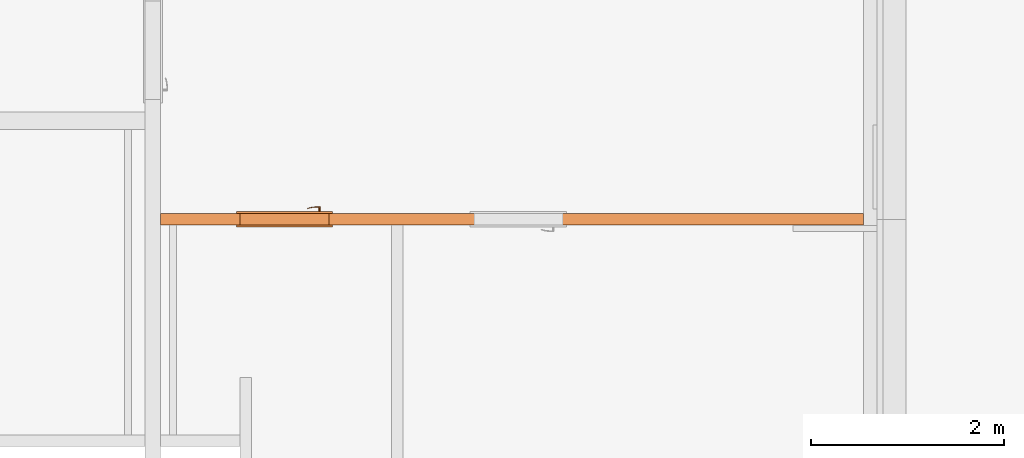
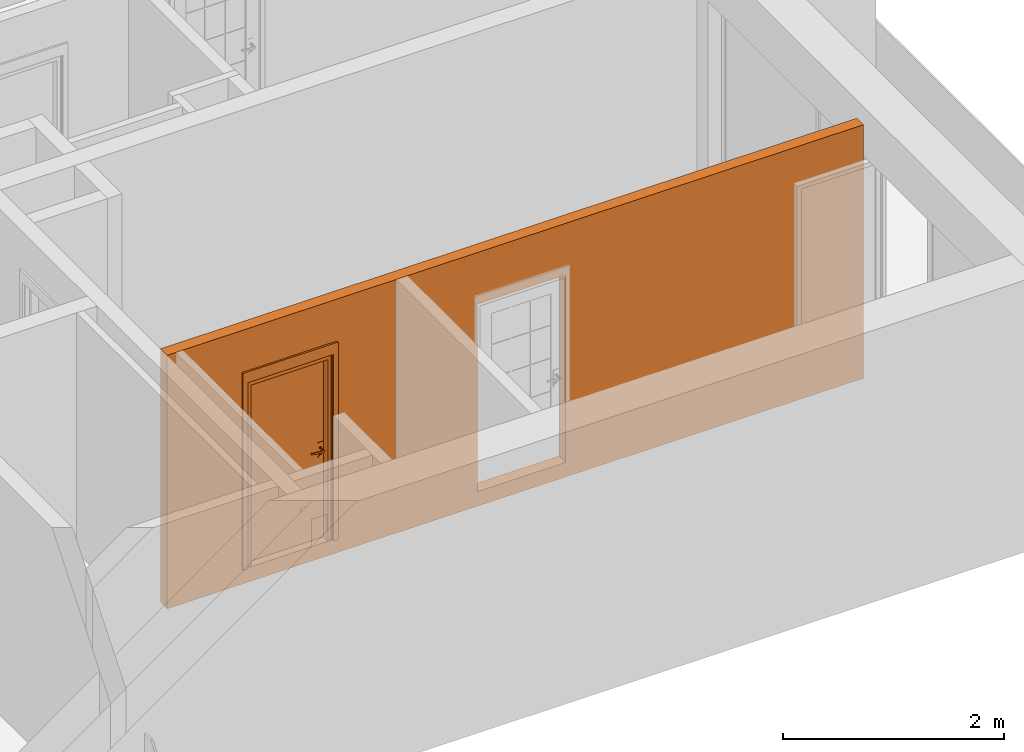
# One storey, part 10 of 66: 2 proxies, 2 openings.
"""IFC2X3 building model written with IfcOpenShell, lengths in millimetres."""

from ifc_helpers import new_model, entity, si_unit, converted_unit, derived_unit, money_unit, direction, frame, origin_with_axes, origin_2d_with_axis, place, context, subcontext, project, spatial, rectangle, extrude, open_shell, faceted_brep, surface_model, source, transform, mapped, material, type_object, element, fill, save


model = new_model("IFC2X3")

# Units and contexts
model_context = context("Model", 3, precision=0.01, world=origin_with_axes(), true_north=direction((0.34421633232, 0.938890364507)))
body_context = subcontext(model_context, "Body", "Model", "MODEL_VIEW")
ifc_project = project(units=[si_unit("LENGTHUNIT", "METRE", prefix="MILLI"), si_unit("AREAUNIT", "SQUARE_METRE"), si_unit("VOLUMEUNIT", "CUBIC_METRE"), converted_unit("PLANEANGLEUNIT", "DEGREE", entity("IfcPlaneAngleMeasure", 0.0174532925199), si_unit("PLANEANGLEUNIT", "RADIAN"), dimensions=[0, 0, 0, 0, 0, 0, 0]), si_unit("SOLIDANGLEUNIT", "STERADIAN"), money_unit("USD"), converted_unit("TIMEUNIT", "Year", entity("IfcTimeMeasure", 31556926.0), si_unit("TIMEUNIT", "SECOND"), dimensions=[0, 0, 1, 0, 0, 0, 0]), si_unit("MASSUNIT", "GRAM", prefix="KILO"), si_unit("THERMODYNAMICTEMPERATUREUNIT", "DEGREE_CELSIUS"), si_unit("LUMINOUSINTENSITYUNIT", "LUMEN"), si_unit("ENERGYUNIT", "JOULE", prefix="MEGA"), derived_unit("THERMALCONDUCTANCEUNIT", [(si_unit("POWERUNIT", "WATT"), 1), (si_unit("LENGTHUNIT", "METRE"), -1), (si_unit("THERMODYNAMICTEMPERATUREUNIT", "KELVIN"), -1)]), derived_unit("SPECIFICHEATCAPACITYUNIT", [(si_unit("ENERGYUNIT", "JOULE"), 1), (si_unit("MASSUNIT", "GRAM", prefix="KILO"), -1), (si_unit("THERMODYNAMICTEMPERATUREUNIT", "KELVIN"), -1)]), derived_unit("MASSDENSITYUNIT", [(si_unit("MASSUNIT", "GRAM", prefix="KILO"), 1), (si_unit("VOLUMEUNIT", "CUBIC_METRE"), -1)])], contexts=[model_context])

# Site, building, storey
site_placement = place(None, origin_with_axes())
site = spatial("IfcSite", under=ifc_project, at=site_placement, Name="USTRONIE MORSKIE", CompositionType="ELEMENT")
building_placement = place(site_placement, origin_with_axes())
building = spatial("IfcBuilding", under=site, at=building_placement, Name="Budynek", CompositionType="ELEMENT")
storey_placement = place(building_placement, frame((0.0, 0.0, 10000.0), z_axis=(0.0, 0.0, 1.0), x_axis=(1.0, 0.0, 0.0)))
storey = spatial("IfcBuildingStorey", under=building, at=storey_placement, Name="PIĘTRO 3", CompositionType="ELEMENT", Elevation=10000.0)

# Proxies, openings
ifc_material = material(Name="Bloczki silikatowe")
building_element_proxy_type_1 = type_object("IfcBuildingElementProxyType", Name="Bloczki silikatowe 120", PredefinedType="NOTDEFINED")
proxy_1_placement = place(storey_placement, frame((359617.920919, 712051.218403, -160.0), z_axis=(0.0, 0.0, 1.0), x_axis=(1.0, 0.0, 0.0)))
proxy_1 = element("IfcBuildingElementProxy", 1, at=proxy_1_placement, inside=storey, type_object=building_element_proxy_type_1, material=ifc_material, Name="SW-04", context=body_context, shape_type="Brep", body=[
    faceted_brep([(7350.03027843, 59.9999999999, 0.0), (7350.03053053, -59.9999999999, 0.0), (80.0, -59.9999999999, 0.0), (80.0, 59.9999999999, 0.0), (7350.03027843, 59.9999999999, 2800.0), (7350.03053053, -59.9999999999, 2800.0), (80.0, -59.9999999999, 2800.0), (80.0, 59.9999999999, 2800.0)], [[[0, 1, 2, 3]], [[1, 0, 4, 5]], [[1, 5, 6, 2]], [[7, 3, 2, 6]], [[4, 0, 3, 7]], [[5, 4, 7, 6]]]),
])
opening_1_placement = place(proxy_1_placement, frame((3780.0, 0.0, 160.0), z_axis=(0.0, 0.0, 1.0), x_axis=(1.0, 0.0, 0.0)))
element("IfcOpeningElement", 2, at=opening_1_placement, cuts=proxy_1, Name="Dw.3", context=body_context, shape_type="SweptSolid", body=[
    extrude(rectangle(XDim=920.0, YDim=2070.0, at=origin_2d_with_axis()), frame((0.0, -120.0, 1035.0), z_axis=(0.0, 1.0, 0.0), x_axis=(-1.0, 0.0, 0.0)), (0.0, 0.0, 1.0), 360.0),
    extrude(rectangle(XDim=994.0, YDim=2177.0, at=origin_2d_with_axis()), frame((0.0, -59.9999999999, 1088.5), z_axis=(0.0, 1.0, 0.0), x_axis=(-1.0, 0.0, 0.0)), (0.0, 0.0, -1.0), 120.0),
    extrude(rectangle(XDim=994.0, YDim=2177.0, at=origin_2d_with_axis()), frame((0.0, 60.0000000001, 1088.5), z_axis=(0.0, -1.0, 0.0), x_axis=(-1.0, 0.0, 0.0)), (0.0, 0.0, -1.0), 120.0),
])
opening_2_placement = place(proxy_1_placement, frame((1360.0, 0.0, 160.0), z_axis=(0.0, 0.0, 1.0), x_axis=(1.0, 0.0, 0.0)))
opening_2 = element("IfcOpeningElement", 3, at=opening_2_placement, cuts=proxy_1, Name="Dw.4", context=body_context, shape_type="SweptSolid", body=[
    extrude(rectangle(XDim=920.0, YDim=2070.0, at=origin_2d_with_axis()), frame((0.0, -120.0, 1035.0), z_axis=(0.0, -1.0, 0.0), x_axis=(-1.0, 0.0, 0.0)), (0.0, 0.0, -1.0), 360.0),
    extrude(rectangle(XDim=994.0, YDim=2177.0, at=origin_2d_with_axis()), frame((0.0, -59.9999999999, 1088.5), z_axis=(0.0, -1.0, 0.0), x_axis=(-1.0, 0.0, 0.0)), (0.0, 0.0, 1.0), 120.0),
    extrude(rectangle(XDim=994.0, YDim=2177.0, at=origin_2d_with_axis()), frame((0.0, 60.0000000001, 1088.5), z_axis=(0.0, 1.0, 0.0), x_axis=(-1.0, 0.0, 0.0)), (0.0, 0.0, 1.0), 120.0),
])
building_element_proxy_type_2 = type_object("IfcBuildingElementProxyType", Name="Drzwi 23", PredefinedType="NOTDEFINED")
shared_shape = source(origin_with_axes(), body_context, "Body", "SurfaceModel", [
    faceted_brep([(460.0, -115.0, 0.0), (460.0, -120.0, 0.0), (435.0, -120.0, 0.0), (435.0, -115.0, 0.0), (460.0, -115.0, 2070.0), (460.0, -120.0, 2070.0), (435.0, -120.0, 2045.0), (435.0, -115.0, 2045.0)], [[[0, 1, 2, 3]], [[4, 5, 1, 0]], [[1, 5, 6, 2]], [[3, 2, 6, 7]], [[0, 3, 7, 4]], [[7, 6, 5, 4]]]),
    faceted_brep([(-460.0, -115.0, 2070.0), (-460.0, -120.0, 2070.0), (-435.0, -120.0, 2045.0), (-435.0, -115.0, 2045.0), (-460.0, -115.0, 0.0), (-460.0, -120.0, 0.0), (-435.0, -120.0, 0.0), (-435.0, -115.0, 0.0)], [[[0, 1, 2, 3]], [[4, 5, 1, 0]], [[1, 5, 6, 2]], [[3, 2, 6, 7]], [[0, 3, 7, 4]], [[7, 6, 5, 4]]]),
    faceted_brep([(435.0, -115.0, 2045.0), (435.0, -120.0, 2045.0), (-435.0, -120.0, 2045.0), (-435.0, -115.0, 2045.0), (460.0, -115.0, 2070.0), (460.0, -120.0, 2070.0), (-460.0, -120.0, 2070.0), (-460.0, -115.0, 2070.0)], [[[0, 1, 2, 3]], [[4, 5, 1, 0]], [[1, 5, 6, 2]], [[3, 2, 6, 7]], [[0, 3, 7, 4]], [[7, 6, 5, 4]]]),
    faceted_brep([(497.0, -139.0, 0.0), (447.0, -139.0, 0.0), (447.0, -120.0, 0.0), (497.0, -120.0, 0.0), (497.0, -139.0, 2177.0), (447.0, -139.0, 2057.0), (447.0, -120.0, 2057.0), (497.0, -120.0, 2177.0)], [[[0, 1, 2, 3]], [[0, 4, 5, 1]], [[1, 5, 6, 2]], [[3, 2, 6, 7]], [[4, 0, 3, 7]], [[5, 4, 7, 6]]]),
    faceted_brep([(-497.0, -139.0, 2177.0), (-447.0, -139.0, 2057.0), (-447.0, -120.0, 2057.0), (-497.0, -120.0, 2177.0), (-497.0, -139.0, 0.0), (-447.0, -139.0, 0.0), (-447.0, -120.0, 0.0), (-497.0, -120.0, 0.0)], [[[0, 1, 2, 3]], [[0, 4, 5, 1]], [[1, 5, 6, 2]], [[3, 2, 6, 7]], [[4, 0, 3, 7]], [[5, 4, 7, 6]]]),
    faceted_brep([(497.0, -139.0, 2177.0), (447.0, -139.0, 2057.0), (447.0, -120.0, 2057.0), (497.0, -120.0, 2177.0), (-497.0, -139.0, 2177.0), (-447.0, -139.0, 2057.0), (-447.0, -120.0, 2057.0), (-497.0, -120.0, 2177.0)], [[[0, 1, 2, 3]], [[0, 4, 5, 1]], [[1, 5, 6, 2]], [[3, 2, 6, 7]], [[4, 0, 3, 7]], [[5, 4, 7, 6]]]),
    faceted_brep([(497.0, 19.0, 0.0), (497.0, 0.0, 0.0), (447.0, 0.0, 0.0), (447.0, 19.0, 0.0), (497.0, 19.0, 2177.0), (497.0, 0.0, 2177.0), (447.0, 0.0, 2057.0), (447.0, 19.0, 2057.0)], [[[0, 1, 2, 3]], [[4, 5, 1, 0]], [[1, 5, 6, 2]], [[3, 2, 6, 7]], [[0, 3, 7, 4]], [[7, 6, 5, 4]]]),
    faceted_brep([(-497.0, 19.0, 2177.0), (-497.0, 0.0, 2177.0), (-447.0, 0.0, 2057.0), (-447.0, 19.0, 2057.0), (-497.0, 19.0, 0.0), (-497.0, 0.0, 0.0), (-447.0, 0.0, 0.0), (-447.0, 19.0, 0.0)], [[[0, 1, 2, 3]], [[4, 5, 1, 0]], [[1, 5, 6, 2]], [[3, 2, 6, 7]], [[0, 3, 7, 4]], [[7, 6, 5, 4]]]),
    faceted_brep([(497.0, 19.0, 2177.0), (497.0, 0.0, 2177.0), (447.0, 0.0, 2057.0), (447.0, 19.0, 2057.0), (-497.0, 19.0, 2177.0), (-497.0, 0.0, 2177.0), (-447.0, 0.0, 2057.0), (-447.0, 19.0, 2057.0)], [[[0, 1, 2, 3]], [[4, 5, 1, 0]], [[1, 5, 6, 2]], [[3, 2, 6, 7]], [[0, 3, 7, 4]], [[7, 6, 5, 4]]]),
    faceted_brep([(400.0, -40.0, 0.0), (400.0, -115.0, 0.0), (400.0, -115.0, 2000.0), (400.0, -40.0, 2000.0), (412.0, -40.0, 0.0), (412.0, 0.0, 0.0), (460.0, 0.0, 0.0), (460.0, -115.0, 0.0), (460.0, -115.0, 2000.0), (412.0, -40.0, 2000.0), (460.0, 0.0, 2000.0), (412.0, 0.0, 2000.0)], [[[0, 1, 2, 3]], [[4, 5, 6, 7, 1, 0]], [[1, 7, 8, 2]], [[9, 3, 2, 8, 10, 11]], [[9, 4, 0, 3]], [[11, 5, 4, 9]], [[11, 10, 6, 5]], [[6, 10, 8, 7]]]),
    faceted_brep([(-412.0, -40.0, 2000.0), (-412.0, 0.0, 2000.0), (-460.0, 0.0, 2000.0), (-460.0, -115.0, 2000.0), (-400.0, -115.0, 2000.0), (-400.0, -40.0, 2000.0), (-412.0, -40.0, 0.0), (-412.0, 0.0, 0.0), (-460.0, 0.0, 0.0), (-460.0, -115.0, 0.0), (-400.0, -115.0, 0.0), (-400.0, -40.0, 0.0)], [[[0, 1, 2, 3, 4, 5]], [[0, 6, 7, 1]], [[7, 8, 2, 1]], [[2, 8, 9, 3]], [[3, 9, 10, 4]], [[5, 4, 10, 11]], [[5, 11, 6, 0]], [[6, 11, 10, 9, 8, 7]]]),
    faceted_brep([(412.0, 0.0, 2012.0), (-412.0, 0.0, 2012.0), (-412.0, 0.0, 2000.0), (-460.0, 0.0, 2000.0), (-460.0, 0.0, 2070.0), (460.0, 0.0, 2070.0), (460.0, 0.0, 2000.0), (412.0, 0.0, 2000.0), (412.0, -40.0, 2012.0), (-412.0, -40.0, 2012.0), (-412.0, -40.0, 2000.0), (-400.0, -40.0, 2000.0), (-400.0, -115.0, 2000.0), (-460.0, -115.0, 2000.0), (-460.0, -115.0, 2070.0), (460.0, -115.0, 2070.0), (460.0, -115.0, 2000.0), (412.0, -40.0, 2000.0), (400.0, -115.0, 2000.0), (400.0, -40.0, 2000.0)], [[[0, 1, 2, 3, 4, 5, 6, 7]], [[0, 8, 9, 1]], [[1, 9, 10, 2]], [[10, 11, 12, 13, 3, 2]], [[4, 3, 13, 14]], [[5, 4, 14, 15]], [[6, 5, 15, 16]], [[17, 7, 6, 16, 18, 19]], [[7, 17, 8, 0]], [[10, 9, 8, 17, 19, 11]], [[19, 18, 12, 11]], [[12, 18, 16, 15, 14, 13]]]),
    faceted_brep([(390.5, -40.0, 1060.0), (333.5, -40.0, 1060.0), (333.5, -43.0, 1060.0), (390.5, -43.0, 1060.0), (390.5, -40.0, 870.0), (333.5, -40.0, 870.0), (333.5, -43.0, 870.0), (390.5, -43.0, 870.0)], [[[0, 1, 2, 3]], [[0, 4, 5, 1]], [[1, 5, 6, 2]], [[3, 2, 6, 7]], [[4, 0, 3, 7]], [[5, 4, 7, 6]]]),
    faceted_brep([(362.0, -104.0, 990.0), (367.0, -104.0, 991.339745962), (367.0, -111.0, 991.339745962), (362.0, -111.0, 990.0), (337.0, -104.0, 990.0), (337.0, -104.0, 1010.0), (362.0, -104.0, 1010.0), (367.0, -104.0, 1008.66025404), (370.660254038, -104.0, 1005.0), (372.0, -104.0, 1000.0), (370.660254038, -104.0, 995.0), (370.660254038, -111.0, 995.0), (372.0, -111.0, 1000.0), (370.660254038, -111.0, 1005.0), (367.0, -111.0, 1008.66025404), (362.0, -111.0, 1010.0), (337.0, -111.0, 1010.0), (337.0, -111.0, 990.0)], [[[0, 1, 2, 3]], [[0, 4, 5, 6, 7, 8, 9, 10, 1]], [[1, 10, 11, 2]], [[3, 2, 11, 12, 13, 14, 15, 16, 17]], [[4, 0, 3, 17]], [[5, 4, 17, 16]], [[6, 5, 16, 15]], [[7, 6, 15, 14]], [[8, 7, 14, 13]], [[9, 8, 13, 12]], [[10, 9, 12, 11]]]),
    surface_model("IfcShellBasedSurfaceModel", [(337.0, -104.0, 1010.0), (323.901717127, -104.0, 1009.60730092), (323.596090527, -111.0, 1009.60730092), (337.0, -104.0, 990.0), (323.901717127, -104.0, 990.392699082), (296.890283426, -108.663544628, 1008.82190275), (337.0, -111.0, 1010.0), (337.0, -111.0, 990.0), (297.804837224, -101.716818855, 991.178097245), (297.804837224, -101.716818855, 1008.82190275), (296.890283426, -108.663544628, 991.178097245), (323.596090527, -111.0, 990.392699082), (272.006256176, -97.1678329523, 991.963495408), (272.006256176, -97.1678329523, 1008.03650459), (270.489735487, -104.008415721, 1008.03650459), (270.489735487, -104.008415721, 991.963495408), (246.702316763, -90.3876628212, 992.748893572), (246.702316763, -90.3876628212, 1007.25110643), (244.59537082, -97.0700416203, 1007.25110643), (244.59537082, -97.0700416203, 992.748893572), (238.829442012, -87.5221707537, 993.0), (238.829442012, -87.5221707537, 1007.0), (236.538795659, -94.1376880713, 1007.0), (236.538795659, -94.1376880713, 993.0)], [open_shell([[[0, 1, 2]], [[0, 3, 4, 1]], [[1, 5, 2]], [[0, 2, 6]], [[4, 3, 7]], [[1, 4, 8, 9]], [[1, 9, 5]], [[2, 5, 10, 11]], [[6, 2, 11, 7]], [[4, 7, 11]], [[8, 4, 11]], [[9, 8, 12, 13]], [[9, 14, 5]], [[5, 14, 15, 10]], [[8, 11, 10]], [[12, 8, 10]], [[13, 12, 16, 17]], [[9, 13, 14]], [[14, 18, 19, 15]], [[12, 10, 15]], [[16, 12, 15]], [[17, 16, 20, 21]], [[13, 17, 18]], [[13, 18, 14]], [[18, 22, 23, 19]], [[16, 15, 19]], [[20, 16, 19]], [[21, 20, 23, 22]], [[17, 21, 22]], [[17, 22, 18]], [[20, 19, 23]]])]),
    faceted_brep([(351.607695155, -53.0, 994.0), (350.0, -53.0, 1000.0), (349.0, -43.0, 1000.0), (350.741669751, -43.0, 993.5), (356.0, -53.0, 989.607695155), (362.0, -53.0, 988.0), (368.0, -53.0, 989.607695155), (372.392304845, -53.0, 994.0), (374.0, -53.0, 1000.0), (372.392304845, -53.0, 1006.0), (368.0, -53.0, 1010.39230485), (362.0, -53.0, 1012.0), (356.0, -53.0, 1010.39230485), (351.607695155, -53.0, 1006.0), (350.741669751, -43.0, 1006.5), (355.5, -43.0, 1011.25833025), (362.0, -43.0, 1013.0), (368.5, -43.0, 1011.25833025), (373.258330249, -43.0, 1006.5), (375.0, -43.0, 1000.0), (373.258330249, -43.0, 993.5), (368.5, -43.0, 988.741669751), (362.0, -43.0, 987.0), (355.5, -43.0, 988.741669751)], [[[0, 1, 2, 3]], [[1, 0, 4, 5, 6, 7, 8, 9, 10, 11, 12, 13]], [[1, 13, 14, 2]], [[2, 14, 15, 16, 17, 18, 19, 20, 21, 22, 23, 3]], [[4, 0, 3, 23]], [[5, 4, 23, 22]], [[6, 5, 22, 21]], [[7, 6, 21, 20]], [[8, 7, 20, 19]], [[9, 8, 19, 18]], [[10, 9, 18, 17]], [[11, 10, 17, 16]], [[12, 11, 16, 15]], [[13, 12, 15, 14]]]),
    faceted_brep([(344.679491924, -47.0, 895.0), (342.0, -47.0, 905.0), (340.0, -43.0, 905.0), (342.947441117, -43.0, 894.0), (352.0, -47.0, 887.679491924), (362.0, -47.0, 885.0), (372.0, -47.0, 887.679491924), (379.320508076, -47.0, 895.0), (382.0, -47.0, 905.0), (379.320508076, -47.0, 915.0), (372.0, -47.0, 922.320508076), (362.0, -47.0, 925.0), (352.0, -47.0, 922.320508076), (344.679491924, -47.0, 915.0), (342.947441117, -43.0, 916.0), (351.0, -43.0, 924.052558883), (362.0, -43.0, 927.0), (373.0, -43.0, 924.052558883), (381.052558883, -43.0, 916.0), (384.0, -43.0, 905.0), (381.052558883, -43.0, 894.0), (373.0, -43.0, 885.947441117), (362.0, -43.0, 883.0), (351.0, -43.0, 885.947441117)], [[[0, 1, 2, 3]], [[1, 0, 4, 5, 6, 7, 8, 9, 10, 11, 12, 13]], [[1, 13, 14, 2]], [[2, 14, 15, 16, 17, 18, 19, 20, 21, 22, 23, 3]], [[4, 0, 3, 23]], [[5, 4, 23, 22]], [[6, 5, 22, 21]], [[7, 6, 21, 20]], [[8, 7, 20, 19]], [[9, 8, 19, 18]], [[10, 9, 18, 17]], [[11, 10, 17, 16]], [[12, 11, 16, 15]], [[13, 12, 15, 14]]]),
    faceted_brep([(357.050252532, -49.0, 909.050252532), (355.0, -49.0, 914.0), (354.0, -47.0, 914.0), (356.343145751, -47.0, 908.343145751), (362.0, -49.0, 907.0), (366.949747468, -49.0, 909.050252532), (369.0, -49.0, 914.0), (366.949747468, -49.0, 918.949747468), (362.0, -49.0, 921.0), (357.050252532, -49.0, 918.949747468), (356.343145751, -47.0, 919.656854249), (362.0, -47.0, 922.0), (367.656854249, -47.0, 919.656854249), (370.0, -47.0, 914.0), (367.656854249, -47.0, 908.343145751), (362.0, -47.0, 906.0)], [[[0, 1, 2, 3]], [[1, 0, 4, 5, 6, 7, 8, 9]], [[1, 9, 10, 2]], [[2, 10, 11, 12, 13, 14, 15, 3]], [[4, 0, 3, 15]], [[5, 4, 15, 14]], [[6, 5, 14, 13]], [[7, 6, 13, 12]], [[8, 7, 12, 11]], [[9, 8, 11, 10]]]),
    faceted_brep([(362.0, -53.0, 1010.0), (357.0, -53.0, 1008.66025404), (357.0, -104.0, 1008.66025404), (362.0, -104.0, 1010.0), (367.0, -53.0, 1008.66025404), (370.660254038, -53.0, 1005.0), (372.0, -53.0, 1000.0), (370.660254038, -53.0, 995.0), (367.0, -53.0, 991.339745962), (362.0, -53.0, 990.0), (357.0, -53.0, 991.339745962), (353.339745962, -53.0, 995.0), (352.0, -53.0, 1000.0), (353.339745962, -53.0, 1005.0), (353.339745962, -104.0, 1005.0), (352.0, -104.0, 1000.0), (353.339745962, -104.0, 995.0), (357.0, -104.0, 991.339745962), (362.0, -104.0, 990.0), (367.0, -104.0, 991.339745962), (370.660254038, -104.0, 995.0), (372.0, -104.0, 1000.0), (370.660254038, -104.0, 1005.0), (367.0, -104.0, 1008.66025404)], [[[0, 1, 2, 3]], [[0, 4, 5, 6, 7, 8, 9, 10, 11, 12, 13, 1]], [[1, 13, 14, 2]], [[3, 2, 14, 15, 16, 17, 18, 19, 20, 21, 22, 23]], [[4, 0, 3, 23]], [[5, 4, 23, 22]], [[6, 5, 22, 21]], [[7, 6, 21, 20]], [[8, 7, 20, 19]], [[9, 8, 19, 18]], [[10, 9, 18, 17]], [[11, 10, 17, 16]], [[12, 11, 16, 15]], [[13, 12, 15, 14]]]),
    faceted_brep([(390.5, 0.0, 1060.0), (390.5, 3.0, 1060.0), (333.5, 3.0, 1060.0), (333.5, 0.0, 1060.0), (390.5, 0.0, 870.0), (390.5, 3.0, 870.0), (333.5, 3.0, 870.0), (333.5, 0.0, 870.0)], [[[0, 1, 2, 3]], [[4, 5, 1, 0]], [[1, 5, 6, 2]], [[3, 2, 6, 7]], [[0, 3, 7, 4]], [[7, 6, 5, 4]]]),
    faceted_brep([(362.0, 64.0, 990.0), (362.0, 71.0, 990.0), (367.0, 71.0, 991.339745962), (367.0, 64.0, 991.339745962), (337.0, 64.0, 990.0), (337.0, 71.0, 990.0), (337.0, 71.0, 1010.0), (362.0, 71.0, 1010.0), (367.0, 71.0, 1008.66025404), (370.660254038, 71.0, 1005.0), (372.0, 71.0, 1000.0), (370.660254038, 71.0, 995.0), (370.660254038, 64.0, 995.0), (372.0, 64.0, 1000.0), (370.660254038, 64.0, 1005.0), (367.0, 64.0, 1008.66025404), (362.0, 64.0, 1010.0), (337.0, 64.0, 1010.0)], [[[0, 1, 2, 3]], [[4, 5, 1, 0]], [[1, 5, 6, 7, 8, 9, 10, 11, 2]], [[3, 2, 11, 12]], [[0, 3, 12, 13, 14, 15, 16, 17, 4]], [[17, 6, 5, 4]], [[16, 7, 6, 17]], [[15, 8, 7, 16]], [[14, 9, 8, 15]], [[13, 10, 9, 14]], [[12, 11, 10, 13]]]),
    surface_model("IfcShellBasedSurfaceModel", [(337.0, 64.0, 1010.0), (323.596090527, 71.0, 1009.60730092), (323.901717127, 64.0, 1009.60730092), (337.0, 71.0, 1010.0), (296.890283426, 68.6635446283, 1008.82190275), (323.901717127, 64.0, 990.392699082), (337.0, 64.0, 990.0), (337.0, 71.0, 990.0), (323.596090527, 71.0, 990.392699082), (296.890283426, 68.6635446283, 991.178097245), (297.804837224, 61.716818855, 1008.82190275), (297.804837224, 61.716818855, 991.178097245), (270.489735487, 64.0084157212, 991.963495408), (270.489735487, 64.0084157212, 1008.03650459), (272.006256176, 57.1678329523, 1008.03650459), (272.006256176, 57.1678329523, 991.963495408), (244.59537082, 57.0700416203, 992.748893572), (244.59537082, 57.0700416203, 1007.25110643), (246.702316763, 50.3876628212, 1007.25110643), (246.702316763, 50.3876628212, 992.748893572), (236.538795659, 54.1376880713, 993.0), (236.538795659, 54.1376880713, 1007.0), (238.829442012, 47.5221707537, 1007.0), (238.829442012, 47.5221707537, 993.0)], [open_shell([[[0, 1, 2]], [[0, 3, 1]], [[2, 1, 4]], [[0, 2, 5, 6]], [[3, 7, 8, 1]], [[1, 8, 9, 4]], [[2, 4, 10]], [[2, 10, 11, 5]], [[5, 7, 6]], [[5, 8, 7]], [[11, 9, 8]], [[4, 9, 12, 13]], [[10, 4, 13]], [[10, 14, 15, 11]], [[11, 8, 5]], [[15, 9, 11]], [[15, 12, 9]], [[13, 12, 16, 17]], [[10, 13, 14]], [[14, 18, 19, 15]], [[19, 12, 15]], [[19, 16, 12]], [[17, 16, 20, 21]], [[14, 13, 17]], [[14, 17, 18]], [[18, 22, 23, 19]], [[23, 16, 19]], [[23, 20, 16]], [[22, 21, 20, 23]], [[18, 17, 21]], [[18, 21, 22]]])]),
    faceted_brep([(351.607695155, 13.0, 994.0), (350.741669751, 3.0, 993.5), (349.0, 3.0, 1000.0), (350.0, 13.0, 1000.0), (356.0, 13.0, 989.607695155), (355.5, 3.0, 988.741669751), (362.0, 3.0, 987.0), (368.5, 3.0, 988.741669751), (373.258330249, 3.0, 993.5), (375.0, 3.0, 1000.0), (373.258330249, 3.0, 1006.5), (368.5, 3.0, 1011.25833025), (362.0, 3.0, 1013.0), (355.5, 3.0, 1011.25833025), (350.741669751, 3.0, 1006.5), (351.607695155, 13.0, 1006.0), (356.0, 13.0, 1010.39230485), (362.0, 13.0, 1012.0), (368.0, 13.0, 1010.39230485), (372.392304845, 13.0, 1006.0), (374.0, 13.0, 1000.0), (372.392304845, 13.0, 994.0), (368.0, 13.0, 989.607695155), (362.0, 13.0, 988.0)], [[[0, 1, 2, 3]], [[4, 5, 1, 0]], [[2, 1, 5, 6, 7, 8, 9, 10, 11, 12, 13, 14]], [[3, 2, 14, 15]], [[3, 15, 16, 17, 18, 19, 20, 21, 22, 23, 4, 0]], [[23, 6, 5, 4]], [[22, 7, 6, 23]], [[21, 8, 7, 22]], [[20, 9, 8, 21]], [[19, 10, 9, 20]], [[18, 11, 10, 19]], [[17, 12, 11, 18]], [[16, 13, 12, 17]], [[15, 14, 13, 16]]]),
    faceted_brep([(344.679491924, 7.0, 895.0), (342.947441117, 3.0, 894.0), (340.0, 3.0, 905.0), (342.0, 7.0, 905.0), (352.0, 7.0, 887.679491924), (351.0, 3.0, 885.947441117), (362.0, 3.0, 883.0), (373.0, 3.0, 885.947441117), (381.052558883, 3.0, 894.0), (384.0, 3.0, 905.0), (381.052558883, 3.0, 916.0), (373.0, 3.0, 924.052558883), (362.0, 3.0, 927.0), (351.0, 3.0, 924.052558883), (342.947441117, 3.0, 916.0), (344.679491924, 7.0, 915.0), (352.0, 7.0, 922.320508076), (362.0, 7.0, 925.0), (372.0, 7.0, 922.320508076), (379.320508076, 7.0, 915.0), (382.0, 7.0, 905.0), (379.320508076, 7.0, 895.0), (372.0, 7.0, 887.679491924), (362.0, 7.0, 885.0)], [[[0, 1, 2, 3]], [[4, 5, 1, 0]], [[2, 1, 5, 6, 7, 8, 9, 10, 11, 12, 13, 14]], [[3, 2, 14, 15]], [[3, 15, 16, 17, 18, 19, 20, 21, 22, 23, 4, 0]], [[23, 6, 5, 4]], [[22, 7, 6, 23]], [[21, 8, 7, 22]], [[20, 9, 8, 21]], [[19, 10, 9, 20]], [[18, 11, 10, 19]], [[17, 12, 11, 18]], [[16, 13, 12, 17]], [[15, 14, 13, 16]]]),
    faceted_brep([(357.050252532, 9.0, 909.050252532), (356.343145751, 7.0, 908.343145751), (354.0, 7.0, 914.0), (355.0, 9.0, 914.0), (362.0, 9.0, 907.0), (362.0, 7.0, 906.0), (367.656854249, 7.0, 908.343145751), (370.0, 7.0, 914.0), (367.656854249, 7.0, 919.656854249), (362.0, 7.0, 922.0), (356.343145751, 7.0, 919.656854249), (357.050252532, 9.0, 918.949747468), (362.0, 9.0, 921.0), (366.949747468, 9.0, 918.949747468), (369.0, 9.0, 914.0), (366.949747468, 9.0, 909.050252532)], [[[0, 1, 2, 3]], [[4, 5, 1, 0]], [[2, 1, 5, 6, 7, 8, 9, 10]], [[3, 2, 10, 11]], [[3, 11, 12, 13, 14, 15, 4, 0]], [[15, 6, 5, 4]], [[14, 7, 6, 15]], [[13, 8, 7, 14]], [[12, 9, 8, 13]], [[11, 10, 9, 12]]]),
    faceted_brep([(362.0, 13.0, 1010.0), (362.0, 64.0, 1010.0), (357.0, 64.0, 1008.66025404), (357.0, 13.0, 1008.66025404), (367.0, 13.0, 1008.66025404), (367.0, 64.0, 1008.66025404), (370.660254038, 64.0, 1005.0), (372.0, 64.0, 1000.0), (370.660254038, 64.0, 995.0), (367.0, 64.0, 991.339745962), (362.0, 64.0, 990.0), (357.0, 64.0, 991.339745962), (353.339745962, 64.0, 995.0), (352.0, 64.0, 1000.0), (353.339745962, 64.0, 1005.0), (353.339745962, 13.0, 1005.0), (352.0, 13.0, 1000.0), (353.339745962, 13.0, 995.0), (357.0, 13.0, 991.339745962), (362.0, 13.0, 990.0), (367.0, 13.0, 991.339745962), (370.660254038, 13.0, 995.0), (372.0, 13.0, 1000.0), (370.660254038, 13.0, 1005.0)], [[[0, 1, 2, 3]], [[4, 5, 1, 0]], [[1, 5, 6, 7, 8, 9, 10, 11, 12, 13, 14, 2]], [[3, 2, 14, 15]], [[0, 3, 15, 16, 17, 18, 19, 20, 21, 22, 23, 4]], [[23, 6, 5, 4]], [[22, 7, 6, 23]], [[21, 8, 7, 22]], [[20, 9, 8, 21]], [[19, 10, 9, 20]], [[18, 11, 10, 19]], [[17, 12, 11, 18]], [[16, 13, 12, 17]], [[15, 14, 13, 16]]]),
    faceted_brep([(-412.0, 0.0, 0.0), (412.0, 0.0, 0.0), (412.0, -40.0, 0.0), (-412.0, -40.0, 0.0), (-412.0, 0.0, 2012.0), (412.0, 0.0, 2012.0), (412.0, -40.0, 2012.0), (-412.0, -40.0, 2012.0)], [[[0, 1, 2, 3]], [[0, 4, 5, 1]], [[1, 5, 6, 2]], [[3, 2, 6, 7]], [[4, 0, 3, 7]], [[5, 4, 7, 6]]]),
])
proxy_2_placement = place(opening_2_placement, frame((-400.0, 0.0, 0.0), z_axis=(0.0, 0.0, 1.0), x_axis=(1.0, 0.0, 0.0)))
proxy_2 = element("IfcBuildingElementProxy", 4, at=proxy_2_placement, inside=storey, type_object=building_element_proxy_type_2, Name="Dw.4", context=body_context, shape_type="MappedRepresentation", body=[
    mapped(shared_shape, transform((400.0, 60.0000000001, 0.0))),
])
fill(opening_2, proxy_2)

save(model, "model.ifc")
